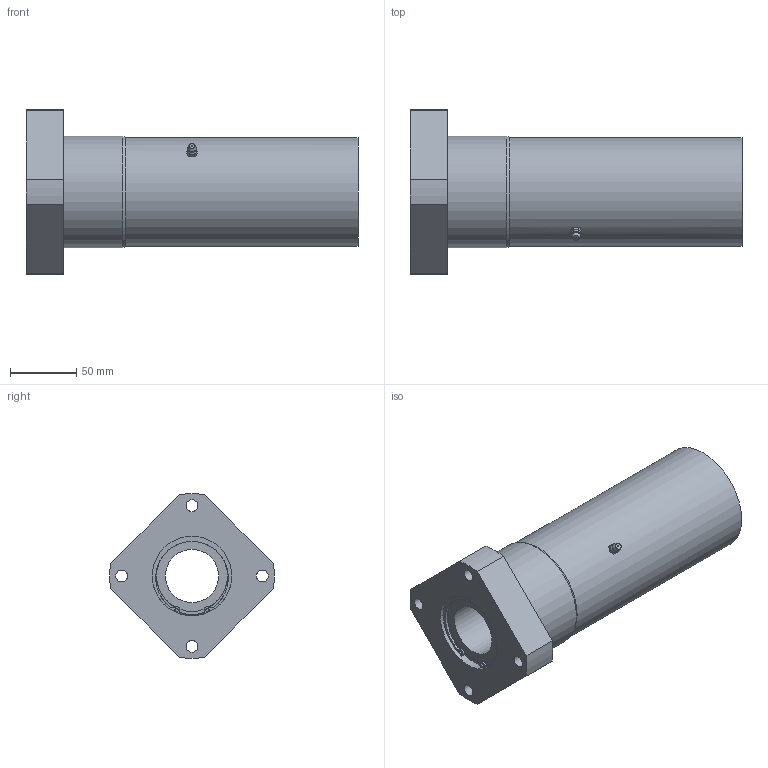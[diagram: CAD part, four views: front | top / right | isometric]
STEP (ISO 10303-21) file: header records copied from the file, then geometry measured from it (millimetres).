
FILE_DESCRIPTION((''),'2;1');
FILE_NAME('D:\製品 (図面)\カタログ用3D\リニアベアリング関連(改)\STEP形式\LFWL\LFWL40A.stp','2010-01-22T16:36:17',('Tsuchiya'),(''),'Autodesk Inventor 10','Autodesk Inventor 10','');
FILE_SCHEMA(('AUTOMOTIVE_DESIGN { 1 0 10303 214 1 1 1 1 }'));
Length unit declared in the file: millimetre
Products named in the file (1): LFWL40A
Bounding box: 250 x 123.84 x 123.84 mm (x, y, z)
Volume: 1117535.2 mm3; surface area: 132538.8 mm2
Topology: 1 solids, 7 shells, 114 faces, 270 edges, 169 vertices
Faces by surface type: bspline 36, plane 35, cylinder 31, cone 8, sphere 2, torus 2
Full cylindrical faces by diameter (mm): 2.5 x2, 9 x4, 40 x2, 53.4 x2, 57 x2, 60 x8, 82 x1, 84 x1
Entity records: 3359 total; most frequent: CARTESIAN_POINT 975, DIRECTION 502, ORIENTED_EDGE 420, AXIS2_PLACEMENT_3D 225, EDGE_CURVE 210, EDGE_LOOP 188, VERTEX_POINT 150, CIRCLE 142
